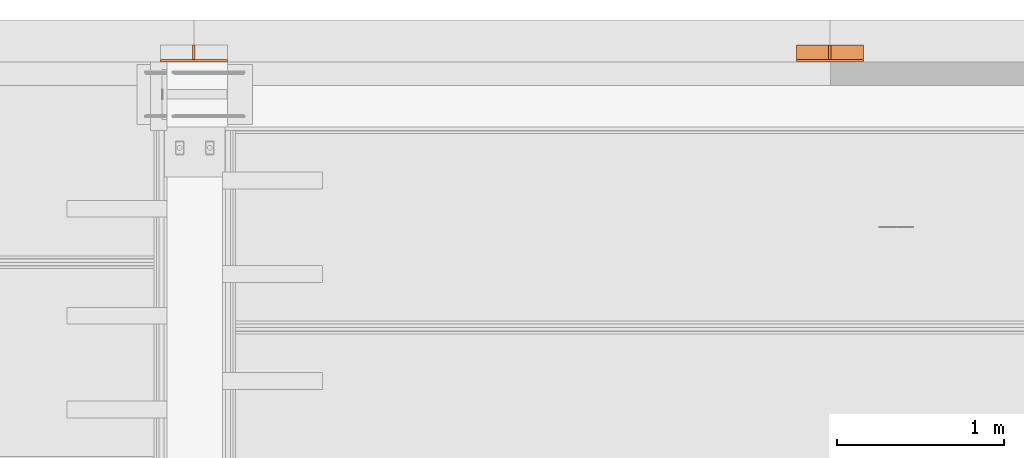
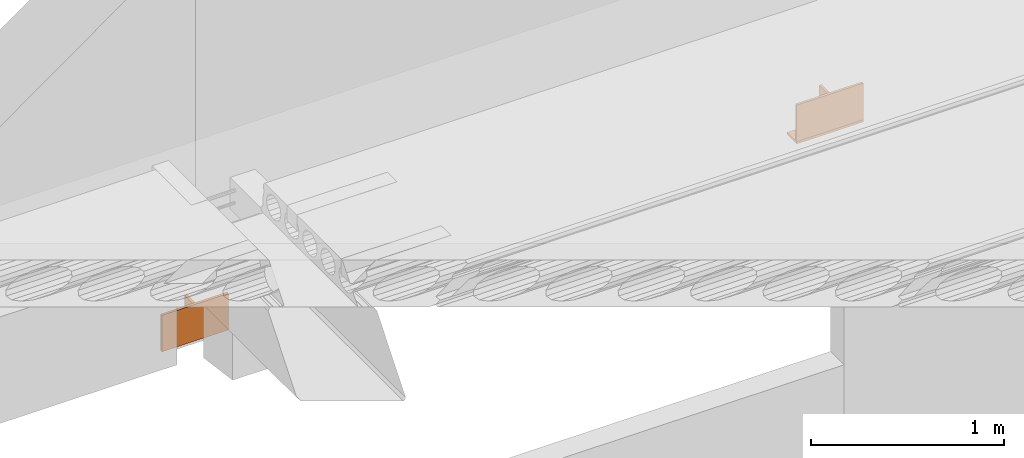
# One storey, part 215 of 230: 5 proxies.
"""IFC4X3_ADD2 building model written with IfcOpenShell, lengths in millimetres."""

from ifc_helpers import new_model, si_unit, direction, frame, frame_2d, origin_with_axes, place, context, subcontext, project, spatial, rectangle, extrude, source, transform, mapped, material, type_object, type_shapes, element, save


model = new_model("IFC4X3_ADD2")

# Units and contexts
model_context = context("Model", 3, precision=1e-05, world=origin_with_axes(), true_north=direction((0.0, 1.0)))
body_context = subcontext(model_context, "Body", "Model", "MODEL_VIEW")
ifc_project = project(units=[si_unit("LENGTHUNIT", "METRE", prefix="MILLI"), si_unit("AREAUNIT", "SQUARE_METRE"), si_unit("VOLUMEUNIT", "CUBIC_METRE"), si_unit("PLANEANGLEUNIT", "RADIAN"), si_unit("TIMEUNIT", "SECOND"), si_unit("MASSUNIT", "GRAM")], contexts=[model_context])

# Site, building, storey
site_placement = place(None, origin_with_axes())
site = spatial("IfcSite", under=ifc_project, at=site_placement, Name="Site", CompositionType="ELEMENT")
building_placement = place(site_placement, origin_with_axes())
building = spatial("IfcBuilding", under=site, at=building_placement, Name="IFC Building Story")
storey_placement = place(building_placement, origin_with_axes())
storey = spatial("IfcBuildingStorey", under=building, at=storey_placement, Name="ETAGE 00 (0)", Elevation=0.0)

# Proxies
ifc_material_1 = material(Name="BS_28_Métal")
building_element_proxy_type_1 = type_object("IfcBuildingElementProxyType", Name="Console métal5_Console métal", PredefinedType="NOTDEFINED")
shared_shape_1 = source(origin_with_axes(), body_context, "Body", "SweptSolid", [
    extrude(rectangle(XDim=84.99999999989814, YDim=15.00000000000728, at=frame_2d((0.0, 5.95523630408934e-12), x_axis=(0.0, 1.0))), frame((39961.3991345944, 26607.500000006, 3000.0), z_axis=(0.0, 0.0, 1.0), x_axis=(1.0, 0.0, 0.0)), (0.0, 0.0, 1.0), 231.1881957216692),
])
type_shapes(building_element_proxy_type_1, [shared_shape_1])
proxy_1_placement = place(storey_placement, origin_with_axes())
element("IfcBuildingElementProxy", 1, at=proxy_1_placement, inside=storey, type_object=building_element_proxy_type_1, material=ifc_material_1, Name="Console métal5:Console métal", ObjectType="Console métal5:Console métal", context=body_context, shape_type="MappedRepresentation", body=[
    mapped(shared_shape_1, transform((0.0, 0.0, 0.0))),
])
building_element_proxy_type_2 = type_object("IfcBuildingElementProxyType", Name="Console métal8_Console métal", PredefinedType="NOTDEFINED")
shared_shape_2 = source(origin_with_axes(), body_context, "Body", "SweptSolid", [
    extrude(rectangle(XDim=84.99999999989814, YDim=15.00000000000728, at=frame_2d((0.0, 5.95523630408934e-12), x_axis=(0.0, 1.0))), frame((39961.3991345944, 26607.500000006, 3000.0), z_axis=(0.0, 0.0, 1.0), x_axis=(1.0, 0.0, 0.0)), (0.0, 0.0, 1.0), 231.1881957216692),
])
type_shapes(building_element_proxy_type_2, [shared_shape_2])
proxy_2_placement = place(storey_placement, frame((3805.0000000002, 0.0, 0.0), z_axis=(0.0, 0.0, 1.0), x_axis=(1.0, 0.0, 0.0)))
element("IfcBuildingElementProxy", 2, at=proxy_2_placement, inside=storey, type_object=building_element_proxy_type_2, material=ifc_material_1, Name="Console métal8:Console métal", ObjectType="Console métal8:Console métal", context=body_context, shape_type="MappedRepresentation", body=[
    mapped(shared_shape_2, transform((0.0, 0.0, 0.0))),
])
building_element_proxy_type_3 = type_object("IfcBuildingElementProxyType", Name="Console métal7_Console métal", PredefinedType="NOTDEFINED")
shared_shape_3 = source(origin_with_axes(), body_context, "Body", "SweptSolid", [
    extrude(rectangle(XDim=400.0000000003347, YDim=100.0, at=frame_2d((0.0, 5.95523630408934e-12), x_axis=(1.0, 0.0))), frame((39961.6894781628, 26600.0, 2985.0), z_axis=(0.0, 0.0, 1.0), x_axis=(1.0, 0.0, 0.0)), (0.0, 0.0, 1.0), 14.99999999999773),
])
type_shapes(building_element_proxy_type_3, [shared_shape_3])
proxy_3_placement = place(storey_placement, frame((3805.00000000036, 0.0, 0.0), z_axis=(0.0, 0.0, 1.0), x_axis=(1.0, 0.0, 0.0)))
element("IfcBuildingElementProxy", 3, at=proxy_3_placement, inside=storey, type_object=building_element_proxy_type_3, material=ifc_material_1, Name="Console métal7:Console métal", ObjectType="Console métal7:Console métal", context=body_context, shape_type="MappedRepresentation", body=[
    mapped(shared_shape_3, transform((0.0, 0.0, 0.0))),
])
ifc_material_2 = material(Name="BS_28_Console métal")
building_element_proxy_type_4 = type_object("IfcBuildingElementProxyType", Name="Console métal3_Console métal", PredefinedType="NOTDEFINED")
shared_shape_4 = source(origin_with_axes(), body_context, "Body", "SweptSolid", [
    extrude(rectangle(XDim=400.0000000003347, YDim=15.0000000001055, at=frame_2d((0.0, 5.95523630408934e-12), x_axis=(1.0, 0.0))), frame((39961.6894781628, 26557.500000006, 3000.0), z_axis=(0.0, 0.0, 1.0), x_axis=(1.0, 0.0, 0.0)), (0.0, 0.0, 1.0), 231.2500000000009),
])
type_shapes(building_element_proxy_type_4, [shared_shape_4])
proxy_4_placement = place(storey_placement, origin_with_axes())
element("IfcBuildingElementProxy", 4, at=proxy_4_placement, inside=storey, type_object=building_element_proxy_type_4, material=ifc_material_2, Name="Console métal3:Console métal", ObjectType="Console métal3:Console métal", context=body_context, shape_type="MappedRepresentation", body=[
    mapped(shared_shape_4, transform((0.0, 0.0, 0.0))),
])
building_element_proxy_type_5 = type_object("IfcBuildingElementProxyType", Name="Console métal6_Console métal", PredefinedType="NOTDEFINED")
shared_shape_5 = source(origin_with_axes(), body_context, "Body", "SweptSolid", [
    extrude(rectangle(XDim=400.0000000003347, YDim=15.0000000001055, at=frame_2d((0.0, 5.95523630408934e-12), x_axis=(1.0, 0.0))), frame((39961.6894781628, 26557.500000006, 3000.0), z_axis=(0.0, 0.0, 1.0), x_axis=(1.0, 0.0, 0.0)), (0.0, 0.0, 1.0), 231.2500000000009),
])
type_shapes(building_element_proxy_type_5, [shared_shape_5])
proxy_5_placement = place(storey_placement, frame((3805.00000000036, 0.0, 0.0), z_axis=(0.0, 0.0, 1.0), x_axis=(1.0, 0.0, 0.0)))
element("IfcBuildingElementProxy", 5, at=proxy_5_placement, inside=storey, type_object=building_element_proxy_type_5, material=ifc_material_2, Name="Console métal6:Console métal", ObjectType="Console métal6:Console métal", context=body_context, shape_type="MappedRepresentation", body=[
    mapped(shared_shape_5, transform((0.0, 0.0, 0.0))),
])

save(model, "model.ifc")
